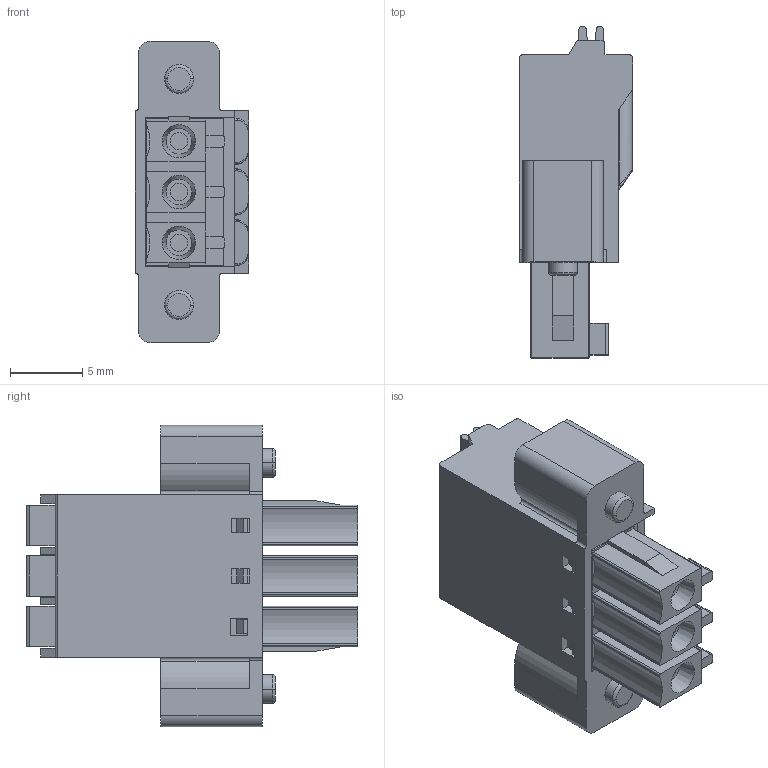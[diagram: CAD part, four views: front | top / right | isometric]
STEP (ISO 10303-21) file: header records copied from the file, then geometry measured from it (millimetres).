
FILE_DESCRIPTION((''),'2;1');
FILE_NAME('33','2019-04-11T',('zhenbing.lai'),(''),'CREO PARAMETRIC BY PTC INC, 2016260','CREO PARAMETRIC BY PTC INC, 2016260','');
FILE_SCHEMA(('CONFIG_CONTROL_DESIGN'));
Length unit declared in the file: millimetre
Products named in the file (1): 33
Bounding box: 7.8 x 22.9 x 20.8 mm (x, y, z)
Volume: 1730.3 mm3; surface area: 1719.7 mm2
Topology: 1 solids, 1 shells, 459 faces, 1322 edges, 864 vertices
Faces by surface type: plane 322, cylinder 101, cone 18, bspline 10, torus 8
Entity records: 15718 total; most frequent: CARTESIAN_POINT 3599, ORIENTED_EDGE 2644, DIRECTION 2363, EDGE_CURVE 1322, VECTOR 973, LINE 973, VERTEX_POINT 864, AXIS2_PLACEMENT_3D 695
